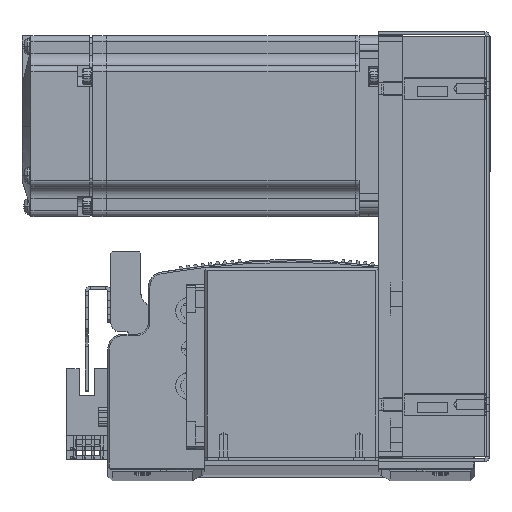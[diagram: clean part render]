
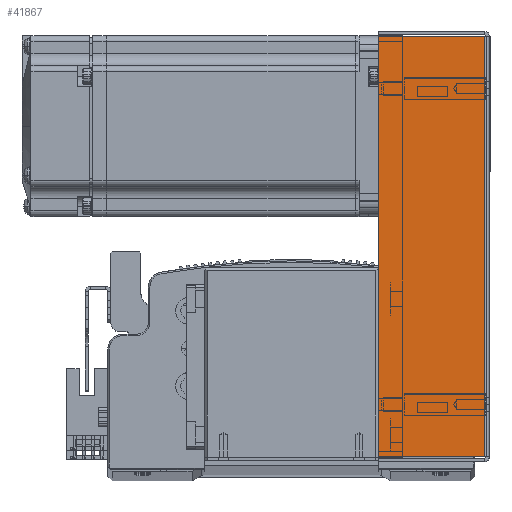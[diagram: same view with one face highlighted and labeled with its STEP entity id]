
A CAD part, top view. The second image highlights one B-rep face of the part: STEP entity #41867.
In plain terms, the highlighted planar face has unit normal (0, 0, 1) as drawn and (0, 0, -1) by its records, which use the part's own axes.
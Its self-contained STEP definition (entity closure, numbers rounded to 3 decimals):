
#1709 = CARTESIAN_POINT ( 'NONE',  ( 69.793, 0.737, -33.5 ) ) ;
#1793 = CARTESIAN_POINT ( 'NONE',  ( -69.793, 36., -33.5 ) ) ;
#1825 = CARTESIAN_POINT ( 'NONE',  ( -69.793, 0.737, -33.5 ) ) ;
#1870 = CARTESIAN_POINT ( 'NONE',  ( 69.793, 36., -33.5 ) ) ;
#6643 = AXIS2_PLACEMENT_3D ( 'NONE', #67733, #67710, #67711 ) ;
#31206 = VECTOR ( 'NONE', #56362, 1000. ) ;
#31231 = LINE ( 'NONE', #56327, #31206 ) ;
#31241 = VECTOR ( 'NONE', #56502, 1000. ) ;
#31260 = LINE ( 'NONE', #56469, #31241 ) ;
#31376 = LINE ( 'NONE', #56641, #31390 ) ;
#31390 = VECTOR ( 'NONE', #56640, 1000. ) ;
#31396 = LINE ( 'NONE', #56708, #31399 ) ;
#31399 = VECTOR ( 'NONE', #56691, 1000. ) ;
#34011 = FACE_OUTER_BOUND ( 'NONE', #74325, .T. ) ;
#41867 = ADVANCED_FACE ( 'NONE', ( #34011 ), #67709, .F. ) ;
#46499 = EDGE_CURVE ( 'NONE', #92162, #92167, #31231, .T. ) ;
#46545 = EDGE_CURVE ( 'NONE', #92182, #92162, #31260, .T. ) ;
#46606 = EDGE_CURVE ( 'NONE', #92163, #92167, #31376, .T. ) ;
#46628 = EDGE_CURVE ( 'NONE', #92182, #92163, #31396, .T. ) ;
#56327 = CARTESIAN_POINT ( 'NONE',  ( 69.793, 0., -33.5 ) ) ;
#56362 = DIRECTION ( 'NONE',  ( 0., 1., 0. ) ) ;
#56469 = CARTESIAN_POINT ( 'NONE',  ( 71.5, 0.737, -33.5 ) ) ;
#56502 = DIRECTION ( 'NONE',  ( 1., 0., 0. ) ) ;
#56640 = DIRECTION ( 'NONE',  ( 1., 0., 0. ) ) ;
#56641 = CARTESIAN_POINT ( 'NONE',  ( 0., 36., -33.5 ) ) ;
#56691 = DIRECTION ( 'NONE',  ( 0., 1., 0. ) ) ;
#56708 = CARTESIAN_POINT ( 'NONE',  ( -69.793, 0., -33.5 ) ) ;
#67709 = PLANE ( 'NONE',  #6643 ) ;
#67710 = DIRECTION ( 'NONE',  ( 0., 0., 1. ) ) ;
#67711 = DIRECTION ( 'NONE',  ( 0., -1., 0. ) ) ;
#67733 = CARTESIAN_POINT ( 'NONE',  ( 0., 0., -33.5 ) ) ;
#74325 = EDGE_LOOP ( 'NONE', ( #88883, #88830, #88831, #88885 ) ) ;
#88830 = ORIENTED_EDGE ( 'NONE', *, *, #46628, .T. ) ;
#88831 = ORIENTED_EDGE ( 'NONE', *, *, #46606, .T. ) ;
#88883 = ORIENTED_EDGE ( 'NONE', *, *, #46545, .F. ) ;
#88885 = ORIENTED_EDGE ( 'NONE', *, *, #46499, .F. ) ;
#92162 = VERTEX_POINT ( 'NONE', #1709 ) ;
#92163 = VERTEX_POINT ( 'NONE', #1793 ) ;
#92167 = VERTEX_POINT ( 'NONE', #1870 ) ;
#92182 = VERTEX_POINT ( 'NONE', #1825 ) ;
